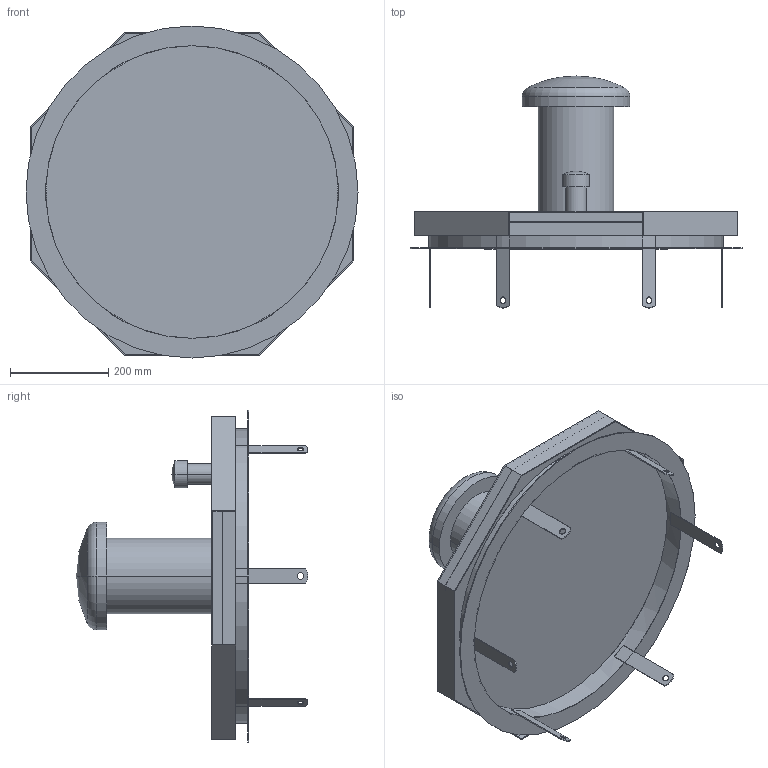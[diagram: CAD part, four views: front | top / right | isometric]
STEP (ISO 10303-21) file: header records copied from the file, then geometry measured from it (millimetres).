
FILE_DESCRIPTION((''),'2;1');
FILE_NAME('017_000107','2018-09-06T',('set'),('HUBER SE'),'PRO/ENGINEER BY PARAMETRIC TECHNOLOGY CORPORATION, 2017170','PRO/ENGINEER BY PARAMETRIC TECHNOLOGY CORPORATION, 2017170','');
FILE_SCHEMA(('AUTOMOTIVE_DESIGN { 1 0 10303 214 1 1 1 1 }'));
Length unit declared in the file: millimetre
Products named in the file (1): 017_000107
Bounding box: 675 x 471.25 x 675 mm (x, y, z)
Volume: 7627215.8 mm3; surface area: 2165733.5 mm2
Topology: 2 solids, 3 shells, 102 faces, 270 edges, 176 vertices
Faces by surface type: plane 64, cylinder 32, sphere 4, torus 2
Entity records: 3769 total; most frequent: DIRECTION 567, CARTESIAN_POINT 555, ORIENTED_EDGE 532, EDGE_CURVE 266, AXIS2_PLACEMENT_3D 191, VECTOR 182, LINE 182, VERTEX_POINT 176
